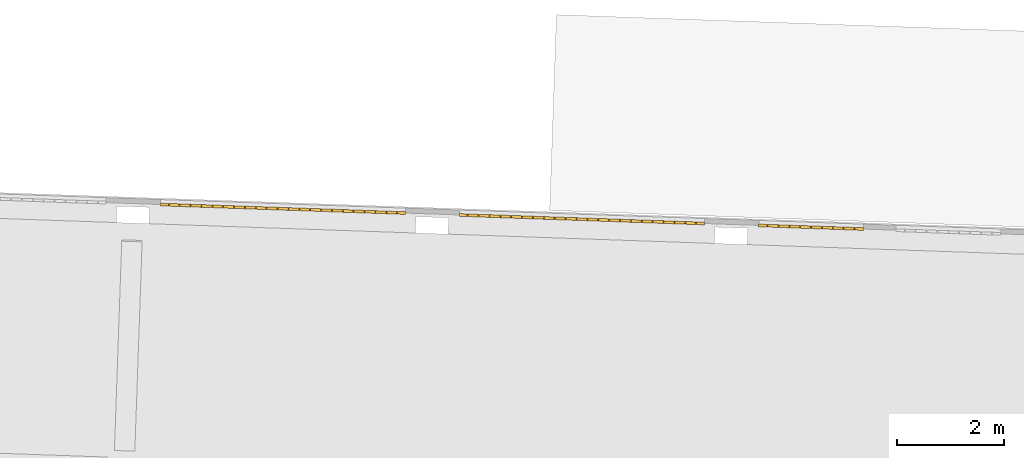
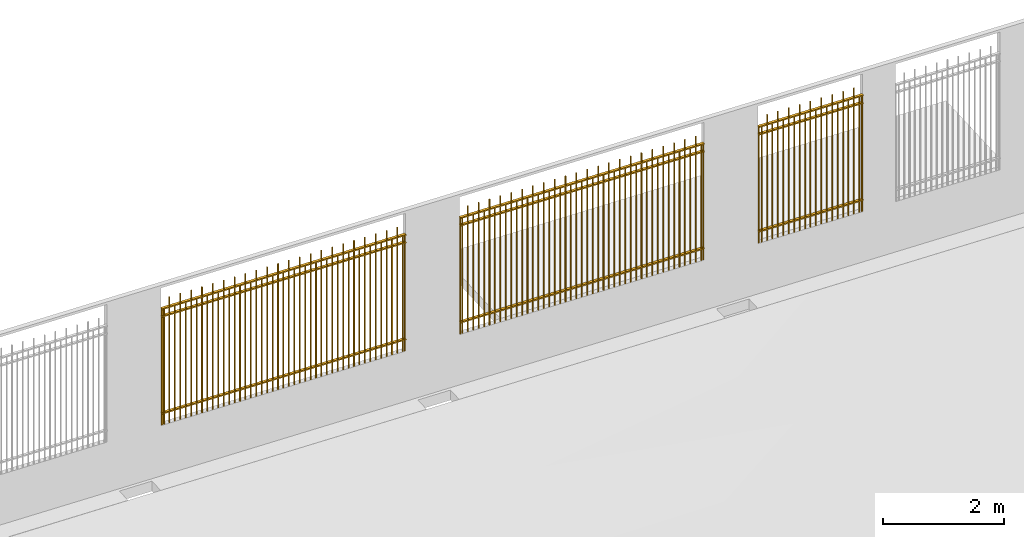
# One storey, part 15 of 17: 3 railings.
"""IFC2X3 building model written with IfcOpenShell, lengths in feet."""

from ifc_helpers import new_model, entity, si_unit, converted_unit, derived_unit, direction, frame, frame_2d, origin, origin_2d_with_axis, place, context, subcontext, project, spatial, rectangle, extrude, element, save


model = new_model("IFC2X3")

# Units and contexts
model_context = context("Model", 3, precision=0.0001, world=origin(), true_north=direction((0.999390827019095, 0.0348994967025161)))
body_context = subcontext(model_context, "Body", "Model", "MODEL_VIEW")
ifc_project = project(units=[converted_unit("LENGTHUNIT", "FOOT", entity("IfcRatioMeasure", 0.3048), si_unit("LENGTHUNIT", "METRE"), dimensions=[1, 0, 0, 0, 0, 0, 0]), converted_unit("AREAUNIT", "SQUARE FOOT", entity("IfcRatioMeasure", 0.09290304), si_unit("AREAUNIT", "SQUARE_METRE"), dimensions=[2, 0, 0, 0, 0, 0, 0]), converted_unit("VOLUMEUNIT", "CUBIC FOOT", entity("IfcRatioMeasure", 0.028316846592), si_unit("VOLUMEUNIT", "CUBIC_METRE"), dimensions=[3, 0, 0, 0, 0, 0, 0]), converted_unit("PLANEANGLEUNIT", "DEGREE", entity("IfcRatioMeasure", 0.0174532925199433), si_unit("PLANEANGLEUNIT", "RADIAN"), dimensions=[0, 0, 0, 0, 0, 0, 0]), si_unit("MASSUNIT", "GRAM", prefix="KILO"), si_unit("TIMEUNIT", "SECOND"), si_unit("FREQUENCYUNIT", "HERTZ"), si_unit("THERMODYNAMICTEMPERATUREUNIT", "DEGREE_CELSIUS"), derived_unit("THERMALTRANSMITTANCEUNIT", [(si_unit("MASSUNIT", "GRAM", prefix="KILO"), 1), (si_unit("THERMODYNAMICTEMPERATUREUNIT", "KELVIN"), -1), (si_unit("TIMEUNIT", "SECOND"), -3)]), derived_unit("VOLUMETRICFLOWRATEUNIT", [(si_unit("LENGTHUNIT", "METRE"), 3), (si_unit("TIMEUNIT", "SECOND"), -1)]), si_unit("ELECTRICCURRENTUNIT", "AMPERE"), si_unit("ELECTRICVOLTAGEUNIT", "VOLT"), si_unit("POWERUNIT", "WATT"), si_unit("FORCEUNIT", "NEWTON"), si_unit("ILLUMINANCEUNIT", "LUX"), si_unit("LUMINOUSFLUXUNIT", "LUMEN"), si_unit("LUMINOUSINTENSITYUNIT", "CANDELA"), derived_unit("USERDEFINED", [(si_unit("MASSUNIT", "GRAM", prefix="KILO"), -1), (si_unit("LENGTHUNIT", "METRE"), -2), (si_unit("TIMEUNIT", "SECOND"), 3), (si_unit("LUMINOUSFLUXUNIT", "LUMEN"), 1)]), derived_unit("LINEARVELOCITYUNIT", [(si_unit("LENGTHUNIT", "METRE"), 1), (si_unit("TIMEUNIT", "SECOND"), -1)]), si_unit("PRESSUREUNIT", "PASCAL"), derived_unit("USERDEFINED", [(si_unit("LENGTHUNIT", "METRE"), -2), (si_unit("MASSUNIT", "GRAM", prefix="KILO"), 1), (si_unit("TIMEUNIT", "SECOND"), -2)])], contexts=[model_context])

# Site, building, storey
site_placement = place(None, frame((892.518771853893, 322.38689265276, 0.00393700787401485), z_axis=(0.0, 0.0, 1.0), x_axis=(0.0348994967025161, 0.999390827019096, 0.0)))
site = spatial("IfcSite", under=ifc_project, at=site_placement, Name="Default", CompositionType="ELEMENT")
building_placement = place(site_placement, origin())
building = spatial("IfcBuilding", under=site, at=building_placement, CompositionType="ELEMENT")
storey_placement = place(building_placement, frame((0.0, 0.0, 557.0)))
storey = spatial("IfcBuildingStorey", under=building, at=storey_placement, Name="Existing Garage - 1st Level", CompositionType="ELEMENT", Elevation=557.0)

# Railings
railing_1_placement = place(storey_placement, origin())
element("IfcRailing", 1, at=railing_1_placement, inside=storey, Name="Railing:Garage Security Grille 8'-4\" High", ObjectType="Railing:Garage Security Grille 8'-4\" High", PredefinedType="NOTDEFINED", context=body_context, shape_type="SweptSolid", body=[
    extrude(rectangle(XDim=0.0625, YDim=0.0625, at=origin_2d_with_axis()), frame((224.125209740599, 253.222286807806, 0.75), z_axis=(0.0, 0.0, 1.0), x_axis=(0.0, 1.0, 0.0)), (0.0, 0.0, 1.0), 7.66666666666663),
    extrude(rectangle(XDim=0.0625, YDim=0.0625, at=origin_2d_with_axis()), frame((224.125209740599, 252.888953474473, 0.75), z_axis=(0.0, 0.0, 1.0), x_axis=(0.0, 1.0, 0.0)), (0.0, 0.0, 1.0), 8.33333333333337),
    extrude(rectangle(XDim=0.0625, YDim=0.0625, at=origin_2d_with_axis()), frame((224.125209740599, 252.555620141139, 0.75), z_axis=(0.0, 0.0, 1.0), x_axis=(0.0, 1.0, 0.0)), (0.0, 0.0, 1.0), 7.66666666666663),
    extrude(rectangle(XDim=0.0625, YDim=0.0625, at=origin_2d_with_axis()), frame((224.125209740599, 252.222286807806, 0.75), z_axis=(0.0, 0.0, 1.0), x_axis=(0.0, 1.0, 0.0)), (0.0, 0.0, 1.0), 8.33333333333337),
    extrude(rectangle(XDim=0.0625, YDim=0.0625, at=origin_2d_with_axis()), frame((224.125209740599, 251.888953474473, 0.75), z_axis=(0.0, 0.0, 1.0), x_axis=(0.0, 1.0, 0.0)), (0.0, 0.0, 1.0), 7.66666666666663),
    extrude(rectangle(XDim=0.0625, YDim=0.0625, at=origin_2d_with_axis()), frame((224.125209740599, 251.555620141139, 0.75), z_axis=(0.0, 0.0, 1.0), x_axis=(0.0, 1.0, 0.0)), (0.0, 0.0, 1.0), 8.33333333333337),
    extrude(rectangle(XDim=0.0625, YDim=0.0625, at=origin_2d_with_axis()), frame((224.125209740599, 251.222286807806, 0.75), z_axis=(0.0, 0.0, 1.0), x_axis=(0.0, 1.0, 0.0)), (0.0, 0.0, 1.0), 7.66666666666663),
    extrude(rectangle(XDim=0.0625, YDim=0.0625, at=origin_2d_with_axis()), frame((224.125209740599, 250.888953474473, 0.75), z_axis=(0.0, 0.0, 1.0), x_axis=(0.0, 1.0, 0.0)), (0.0, 0.0, 1.0), 8.33333333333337),
    extrude(rectangle(XDim=0.0625, YDim=0.0625, at=origin_2d_with_axis()), frame((224.125209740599, 250.555620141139, 0.75), z_axis=(0.0, 0.0, 1.0), x_axis=(0.0, 1.0, 0.0)), (0.0, 0.0, 1.0), 7.66666666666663),
    extrude(rectangle(XDim=0.0625, YDim=0.0625, at=origin_2d_with_axis()), frame((224.125209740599, 250.222286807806, 0.75), z_axis=(0.0, 0.0, 1.0), x_axis=(0.0, 1.0, 0.0)), (0.0, 0.0, 1.0), 8.33333333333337),
    extrude(rectangle(XDim=0.0625, YDim=0.0625, at=origin_2d_with_axis()), frame((224.125209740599, 249.888953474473, 0.75), z_axis=(0.0, 0.0, 1.0), x_axis=(0.0, 1.0, 0.0)), (0.0, 0.0, 1.0), 7.66666666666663),
    extrude(rectangle(XDim=0.0625, YDim=0.0625, at=origin_2d_with_axis()), frame((224.125209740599, 249.555620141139, 0.75), z_axis=(0.0, 0.0, 1.0), x_axis=(0.0, 1.0, 0.0)), (0.0, 0.0, 1.0), 8.33333333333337),
    extrude(rectangle(XDim=0.0625, YDim=0.0625, at=origin_2d_with_axis()), frame((224.125209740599, 249.222286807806, 0.75), z_axis=(0.0, 0.0, 1.0), x_axis=(0.0, 1.0, 0.0)), (0.0, 0.0, 1.0), 7.66666666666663),
    extrude(rectangle(XDim=0.0625, YDim=0.0625, at=origin_2d_with_axis()), frame((224.125209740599, 248.888953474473, 0.75), z_axis=(0.0, 0.0, 1.0), x_axis=(0.0, 1.0, 0.0)), (0.0, 0.0, 1.0), 8.33333333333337),
    extrude(rectangle(XDim=0.0625, YDim=0.0625, at=origin_2d_with_axis()), frame((224.125209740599, 248.555620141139, 0.75), z_axis=(0.0, 0.0, 1.0), x_axis=(0.0, 1.0, 0.0)), (0.0, 0.0, 1.0), 7.66666666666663),
    extrude(rectangle(XDim=0.0625, YDim=0.0625, at=origin_2d_with_axis()), frame((224.125209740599, 248.222286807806, 0.75), z_axis=(0.0, 0.0, 1.0), x_axis=(0.0, 1.0, 0.0)), (0.0, 0.0, 1.0), 8.33333333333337),
    extrude(rectangle(XDim=0.0625, YDim=0.0625, at=origin_2d_with_axis()), frame((224.125209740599, 247.888953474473, 0.75), z_axis=(0.0, 0.0, 1.0), x_axis=(0.0, 1.0, 0.0)), (0.0, 0.0, 1.0), 7.66666666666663),
    extrude(rectangle(XDim=0.0625, YDim=0.0625, at=origin_2d_with_axis()), frame((224.125209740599, 247.555620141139, 0.75), z_axis=(0.0, 0.0, 1.0), x_axis=(0.0, 1.0, 0.0)), (0.0, 0.0, 1.0), 8.33333333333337),
    extrude(rectangle(XDim=0.0625, YDim=0.0625, at=origin_2d_with_axis()), frame((224.125209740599, 247.222286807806, 0.75), z_axis=(0.0, 0.0, 1.0), x_axis=(0.0, 1.0, 0.0)), (0.0, 0.0, 1.0), 7.66666666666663),
    extrude(rectangle(XDim=0.0625, YDim=0.0625, at=origin_2d_with_axis()), frame((224.125209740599, 253.388953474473, 0.75), z_axis=(0.0, 0.0, 1.0), x_axis=(0.0, 1.0, 0.0)), (0.0, 0.0, 1.0), 7.66666666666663),
    extrude(rectangle(XDim=0.0625, YDim=0.0625, at=origin_2d_with_axis()), frame((224.125209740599, 247.055620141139, 0.75), z_axis=(0.0, 0.0, 1.0), x_axis=(0.0, 1.0, 0.0)), (0.0, 0.0, 1.0), 7.66666666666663),
    extrude(rectangle(XDim=6.4166666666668, YDim=0.166666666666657, at=frame_2d((0.0, 1.4210854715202e-14), x_axis=(1.0, 0.0))), frame((224.1252097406, 250.222286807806, 8.41666666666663), z_axis=(0.0, 0.0, 1.0), x_axis=(0.0, 1.0, 0.0)), (0.0, 0.0, 1.0), 0.0833333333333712),
    extrude(rectangle(XDim=6.4166666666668, YDim=0.166666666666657, at=frame_2d((0.0, 1.4210854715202e-14), x_axis=(1.0, 0.0))), frame((224.1252097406, 250.222286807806, 1.5), z_axis=(0.0, 0.0, 1.0), x_axis=(0.0, 1.0, 0.0)), (0.0, 0.0, 1.0), 0.0833333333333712),
    extrude(rectangle(XDim=6.4166666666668, YDim=0.166666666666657, at=frame_2d((0.0, 1.4210854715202e-14), x_axis=(1.0, 0.0))), frame((224.1252097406, 250.222286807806, 7.91666666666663), z_axis=(0.0, 0.0, 1.0), x_axis=(0.0, 1.0, 0.0)), (0.0, 0.0, 1.0), 0.0833333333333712),
])
railing_2_placement = place(storey_placement, origin())
element("IfcRailing", 2, at=railing_2_placement, inside=storey, Name="Railing:Garage Security Grille 8'-4\" High", ObjectType="Railing:Garage Security Grille 8'-4\" High", PredefinedType="NOTDEFINED", context=body_context, shape_type="SweptSolid", body=[
    extrude(rectangle(XDim=0.0625, YDim=0.0625, at=origin_2d_with_axis()), frame((224.1252097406, 271.597286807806, 0.75), z_axis=(0.0, 0.0, 1.0), x_axis=(0.0, 1.0, 0.0)), (0.0, 0.0, 1.0), 7.66666666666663),
    extrude(rectangle(XDim=0.0625, YDim=0.0625, at=origin_2d_with_axis()), frame((224.1252097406, 271.263953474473, 0.75), z_axis=(0.0, 0.0, 1.0), x_axis=(0.0, 1.0, 0.0)), (0.0, 0.0, 1.0), 8.33333333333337),
    extrude(rectangle(XDim=0.0625, YDim=0.0625, at=origin_2d_with_axis()), frame((224.1252097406, 270.930620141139, 0.75), z_axis=(0.0, 0.0, 1.0), x_axis=(0.0, 1.0, 0.0)), (0.0, 0.0, 1.0), 7.66666666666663),
    extrude(rectangle(XDim=0.0625, YDim=0.0625, at=origin_2d_with_axis()), frame((224.1252097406, 270.597286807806, 0.75), z_axis=(0.0, 0.0, 1.0), x_axis=(0.0, 1.0, 0.0)), (0.0, 0.0, 1.0), 8.33333333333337),
    extrude(rectangle(XDim=0.0625, YDim=0.0625, at=origin_2d_with_axis()), frame((224.1252097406, 270.263953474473, 0.75), z_axis=(0.0, 0.0, 1.0), x_axis=(0.0, 1.0, 0.0)), (0.0, 0.0, 1.0), 7.66666666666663),
    extrude(rectangle(XDim=0.0625, YDim=0.0625, at=origin_2d_with_axis()), frame((224.1252097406, 269.930620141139, 0.75), z_axis=(0.0, 0.0, 1.0), x_axis=(0.0, 1.0, 0.0)), (0.0, 0.0, 1.0), 8.33333333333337),
    extrude(rectangle(XDim=0.0625, YDim=0.0625, at=origin_2d_with_axis()), frame((224.1252097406, 269.597286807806, 0.75), z_axis=(0.0, 0.0, 1.0), x_axis=(0.0, 1.0, 0.0)), (0.0, 0.0, 1.0), 7.66666666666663),
    extrude(rectangle(XDim=0.0625, YDim=0.0625, at=origin_2d_with_axis()), frame((224.1252097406, 269.263953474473, 0.75), z_axis=(0.0, 0.0, 1.0), x_axis=(0.0, 1.0, 0.0)), (0.0, 0.0, 1.0), 8.33333333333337),
    extrude(rectangle(XDim=0.0625, YDim=0.0625, at=origin_2d_with_axis()), frame((224.1252097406, 268.930620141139, 0.75), z_axis=(0.0, 0.0, 1.0), x_axis=(0.0, 1.0, 0.0)), (0.0, 0.0, 1.0), 7.66666666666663),
    extrude(rectangle(XDim=0.0625, YDim=0.0625, at=origin_2d_with_axis()), frame((224.1252097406, 268.597286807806, 0.75), z_axis=(0.0, 0.0, 1.0), x_axis=(0.0, 1.0, 0.0)), (0.0, 0.0, 1.0), 8.33333333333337),
    extrude(rectangle(XDim=0.0625, YDim=0.0625, at=origin_2d_with_axis()), frame((224.1252097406, 268.263953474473, 0.75), z_axis=(0.0, 0.0, 1.0), x_axis=(0.0, 1.0, 0.0)), (0.0, 0.0, 1.0), 7.66666666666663),
    extrude(rectangle(XDim=0.0625, YDim=0.0625, at=origin_2d_with_axis()), frame((224.1252097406, 267.930620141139, 0.75), z_axis=(0.0, 0.0, 1.0), x_axis=(0.0, 1.0, 0.0)), (0.0, 0.0, 1.0), 8.33333333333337),
    extrude(rectangle(XDim=0.0625, YDim=0.0625, at=origin_2d_with_axis()), frame((224.1252097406, 267.597286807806, 0.75), z_axis=(0.0, 0.0, 1.0), x_axis=(0.0, 1.0, 0.0)), (0.0, 0.0, 1.0), 7.66666666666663),
    extrude(rectangle(XDim=0.0625, YDim=0.0625, at=origin_2d_with_axis()), frame((224.1252097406, 267.263953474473, 0.75), z_axis=(0.0, 0.0, 1.0), x_axis=(0.0, 1.0, 0.0)), (0.0, 0.0, 1.0), 8.33333333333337),
    extrude(rectangle(XDim=0.0625, YDim=0.0625, at=origin_2d_with_axis()), frame((224.1252097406, 266.930620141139, 0.75), z_axis=(0.0, 0.0, 1.0), x_axis=(0.0, 1.0, 0.0)), (0.0, 0.0, 1.0), 7.66666666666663),
    extrude(rectangle(XDim=0.0625, YDim=0.0625, at=origin_2d_with_axis()), frame((224.1252097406, 266.597286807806, 0.75), z_axis=(0.0, 0.0, 1.0), x_axis=(0.0, 1.0, 0.0)), (0.0, 0.0, 1.0), 8.33333333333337),
    extrude(rectangle(XDim=0.0625, YDim=0.0625, at=origin_2d_with_axis()), frame((224.1252097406, 266.263953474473, 0.75), z_axis=(0.0, 0.0, 1.0), x_axis=(0.0, 1.0, 0.0)), (0.0, 0.0, 1.0), 7.66666666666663),
    extrude(rectangle(XDim=0.0625, YDim=0.0625, at=origin_2d_with_axis()), frame((224.1252097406, 265.930620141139, 0.75), z_axis=(0.0, 0.0, 1.0), x_axis=(0.0, 1.0, 0.0)), (0.0, 0.0, 1.0), 8.33333333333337),
    extrude(rectangle(XDim=0.0625, YDim=0.0625, at=origin_2d_with_axis()), frame((224.1252097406, 265.597286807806, 0.75), z_axis=(0.0, 0.0, 1.0), x_axis=(0.0, 1.0, 0.0)), (0.0, 0.0, 1.0), 7.66666666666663),
    extrude(rectangle(XDim=0.0625, YDim=0.0625, at=origin_2d_with_axis()), frame((224.1252097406, 265.263953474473, 0.75), z_axis=(0.0, 0.0, 1.0), x_axis=(0.0, 1.0, 0.0)), (0.0, 0.0, 1.0), 8.33333333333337),
    extrude(rectangle(XDim=0.0625, YDim=0.0625, at=origin_2d_with_axis()), frame((224.1252097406, 264.930620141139, 0.75), z_axis=(0.0, 0.0, 1.0), x_axis=(0.0, 1.0, 0.0)), (0.0, 0.0, 1.0), 7.66666666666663),
    extrude(rectangle(XDim=0.0625, YDim=0.0625, at=origin_2d_with_axis()), frame((224.1252097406, 264.597286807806, 0.75), z_axis=(0.0, 0.0, 1.0), x_axis=(0.0, 1.0, 0.0)), (0.0, 0.0, 1.0), 8.33333333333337),
    extrude(rectangle(XDim=0.0625, YDim=0.0625, at=origin_2d_with_axis()), frame((224.1252097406, 264.263953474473, 0.75), z_axis=(0.0, 0.0, 1.0), x_axis=(0.0, 1.0, 0.0)), (0.0, 0.0, 1.0), 7.66666666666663),
    extrude(rectangle(XDim=0.0625, YDim=0.0625, at=origin_2d_with_axis()), frame((224.1252097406, 263.930620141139, 0.75), z_axis=(0.0, 0.0, 1.0), x_axis=(0.0, 1.0, 0.0)), (0.0, 0.0, 1.0), 8.33333333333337),
    extrude(rectangle(XDim=0.0625, YDim=0.0625, at=origin_2d_with_axis()), frame((224.1252097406, 263.597286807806, 0.75), z_axis=(0.0, 0.0, 1.0), x_axis=(0.0, 1.0, 0.0)), (0.0, 0.0, 1.0), 7.66666666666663),
    extrude(rectangle(XDim=0.0625, YDim=0.0625, at=origin_2d_with_axis()), frame((224.1252097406, 263.263953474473, 0.75), z_axis=(0.0, 0.0, 1.0), x_axis=(0.0, 1.0, 0.0)), (0.0, 0.0, 1.0), 8.33333333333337),
    extrude(rectangle(XDim=0.0625, YDim=0.0625, at=origin_2d_with_axis()), frame((224.1252097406, 262.930620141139, 0.75), z_axis=(0.0, 0.0, 1.0), x_axis=(0.0, 1.0, 0.0)), (0.0, 0.0, 1.0), 7.66666666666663),
    extrude(rectangle(XDim=0.0625, YDim=0.0625, at=origin_2d_with_axis()), frame((224.1252097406, 262.597286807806, 0.75), z_axis=(0.0, 0.0, 1.0), x_axis=(0.0, 1.0, 0.0)), (0.0, 0.0, 1.0), 8.33333333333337),
    extrude(rectangle(XDim=0.0625, YDim=0.0625, at=origin_2d_with_axis()), frame((224.1252097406, 262.263953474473, 0.75), z_axis=(0.0, 0.0, 1.0), x_axis=(0.0, 1.0, 0.0)), (0.0, 0.0, 1.0), 7.66666666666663),
    extrude(rectangle(XDim=0.0625, YDim=0.0625, at=origin_2d_with_axis()), frame((224.1252097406, 261.930620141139, 0.75), z_axis=(0.0, 0.0, 1.0), x_axis=(0.0, 1.0, 0.0)), (0.0, 0.0, 1.0), 8.33333333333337),
    extrude(rectangle(XDim=0.0625, YDim=0.0625, at=origin_2d_with_axis()), frame((224.1252097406, 261.597286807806, 0.75), z_axis=(0.0, 0.0, 1.0), x_axis=(0.0, 1.0, 0.0)), (0.0, 0.0, 1.0), 7.66666666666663),
    extrude(rectangle(XDim=0.0625, YDim=0.0625, at=origin_2d_with_axis()), frame((224.1252097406, 261.263953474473, 0.75), z_axis=(0.0, 0.0, 1.0), x_axis=(0.0, 1.0, 0.0)), (0.0, 0.0, 1.0), 8.33333333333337),
    extrude(rectangle(XDim=0.0625, YDim=0.0625, at=origin_2d_with_axis()), frame((224.1252097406, 260.930620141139, 0.75), z_axis=(0.0, 0.0, 1.0), x_axis=(0.0, 1.0, 0.0)), (0.0, 0.0, 1.0), 7.66666666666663),
    extrude(rectangle(XDim=0.0625, YDim=0.0625, at=origin_2d_with_axis()), frame((224.1252097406, 260.597286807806, 0.75), z_axis=(0.0, 0.0, 1.0), x_axis=(0.0, 1.0, 0.0)), (0.0, 0.0, 1.0), 8.33333333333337),
    extrude(rectangle(XDim=0.0625, YDim=0.0625, at=origin_2d_with_axis()), frame((224.1252097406, 260.263953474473, 0.75), z_axis=(0.0, 0.0, 1.0), x_axis=(0.0, 1.0, 0.0)), (0.0, 0.0, 1.0), 7.66666666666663),
    extrude(rectangle(XDim=0.0625, YDim=0.0625, at=origin_2d_with_axis()), frame((224.1252097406, 259.930620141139, 0.75), z_axis=(0.0, 0.0, 1.0), x_axis=(0.0, 1.0, 0.0)), (0.0, 0.0, 1.0), 8.33333333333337),
    extrude(rectangle(XDim=0.0625, YDim=0.0625, at=origin_2d_with_axis()), frame((224.1252097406, 259.597286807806, 0.75), z_axis=(0.0, 0.0, 1.0), x_axis=(0.0, 1.0, 0.0)), (0.0, 0.0, 1.0), 7.66666666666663),
    extrude(rectangle(XDim=0.0625, YDim=0.0625, at=origin_2d_with_axis()), frame((224.1252097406, 259.263953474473, 0.75), z_axis=(0.0, 0.0, 1.0), x_axis=(0.0, 1.0, 0.0)), (0.0, 0.0, 1.0), 8.33333333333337),
    extrude(rectangle(XDim=0.0625, YDim=0.0625, at=origin_2d_with_axis()), frame((224.1252097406, 258.930620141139, 0.75), z_axis=(0.0, 0.0, 1.0), x_axis=(0.0, 1.0, 0.0)), (0.0, 0.0, 1.0), 7.66666666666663),
    extrude(rectangle(XDim=0.0625, YDim=0.0625, at=origin_2d_with_axis()), frame((224.1252097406, 258.597286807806, 0.75), z_axis=(0.0, 0.0, 1.0), x_axis=(0.0, 1.0, 0.0)), (0.0, 0.0, 1.0), 8.33333333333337),
    extrude(rectangle(XDim=0.0625, YDim=0.0625, at=origin_2d_with_axis()), frame((224.1252097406, 258.263953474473, 0.75), z_axis=(0.0, 0.0, 1.0), x_axis=(0.0, 1.0, 0.0)), (0.0, 0.0, 1.0), 7.66666666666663),
    extrude(rectangle(XDim=0.0625, YDim=0.0625, at=origin_2d_with_axis()), frame((224.1252097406, 257.930620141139, 0.75), z_axis=(0.0, 0.0, 1.0), x_axis=(0.0, 1.0, 0.0)), (0.0, 0.0, 1.0), 8.33333333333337),
    extrude(rectangle(XDim=0.0625, YDim=0.0625, at=origin_2d_with_axis()), frame((224.1252097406, 257.597286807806, 0.75), z_axis=(0.0, 0.0, 1.0), x_axis=(0.0, 1.0, 0.0)), (0.0, 0.0, 1.0), 7.66666666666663),
    extrude(rectangle(XDim=0.0625, YDim=0.0625, at=origin_2d_with_axis()), frame((224.1252097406, 257.263953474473, 0.75), z_axis=(0.0, 0.0, 1.0), x_axis=(0.0, 1.0, 0.0)), (0.0, 0.0, 1.0), 8.33333333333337),
    extrude(rectangle(XDim=0.0625, YDim=0.0625, at=origin_2d_with_axis()), frame((224.1252097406, 256.930620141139, 0.75), z_axis=(0.0, 0.0, 1.0), x_axis=(0.0, 1.0, 0.0)), (0.0, 0.0, 1.0), 7.66666666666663),
    extrude(rectangle(XDim=0.0625, YDim=0.0625, at=origin_2d_with_axis()), frame((224.1252097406, 271.722286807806, 0.75), z_axis=(0.0, 0.0, 1.0), x_axis=(0.0, 1.0, 0.0)), (0.0, 0.0, 1.0), 7.66666666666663),
    extrude(rectangle(XDim=0.0625, YDim=0.0625, at=origin_2d_with_axis()), frame((224.1252097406, 256.805620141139, 0.75), z_axis=(0.0, 0.0, 1.0), x_axis=(0.0, 1.0, 0.0)), (0.0, 0.0, 1.0), 7.66666666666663),
    extrude(rectangle(XDim=14.9999999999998, YDim=0.166666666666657, at=frame_2d((2.8421709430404e-14, -1.4210854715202e-14), x_axis=(1.0, 0.0))), frame((224.1252097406, 264.263953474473, 8.41666666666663), z_axis=(0.0, 0.0, 1.0), x_axis=(0.0, 1.0, 0.0)), (0.0, 0.0, 1.0), 0.0833333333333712),
    extrude(rectangle(XDim=14.9999999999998, YDim=0.166666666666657, at=frame_2d((2.8421709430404e-14, -1.4210854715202e-14), x_axis=(1.0, 0.0))), frame((224.1252097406, 264.263953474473, 1.5), z_axis=(0.0, 0.0, 1.0), x_axis=(0.0, 1.0, 0.0)), (0.0, 0.0, 1.0), 0.0833333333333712),
    extrude(rectangle(XDim=14.9999999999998, YDim=0.166666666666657, at=frame_2d((2.8421709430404e-14, -1.4210854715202e-14), x_axis=(1.0, 0.0))), frame((224.1252097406, 264.263953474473, 7.91666666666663), z_axis=(0.0, 0.0, 1.0), x_axis=(0.0, 1.0, 0.0)), (0.0, 0.0, 1.0), 0.0833333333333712),
])
railing_3_placement = place(storey_placement, origin())
element("IfcRailing", 3, at=railing_3_placement, inside=storey, Name="Railing:Garage Security Grille 8'-4\" High", ObjectType="Railing:Garage Security Grille 8'-4\" High", PredefinedType="NOTDEFINED", context=body_context, shape_type="SweptSolid", body=[
    extrude(rectangle(XDim=0.0625, YDim=0.0625, at=origin_2d_with_axis()), frame((224.1252097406, 289.920203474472, 0.75), z_axis=(0.0, 0.0, 1.0), x_axis=(0.0, 1.0, 0.0)), (0.0, 0.0, 1.0), 7.66666666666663),
    extrude(rectangle(XDim=0.0625, YDim=0.0625, at=origin_2d_with_axis()), frame((224.1252097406, 289.586870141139, 0.75), z_axis=(0.0, 0.0, 1.0), x_axis=(0.0, 1.0, 0.0)), (0.0, 0.0, 1.0), 8.33333333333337),
    extrude(rectangle(XDim=0.0625, YDim=0.0625, at=origin_2d_with_axis()), frame((224.1252097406, 289.253536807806, 0.75), z_axis=(0.0, 0.0, 1.0), x_axis=(0.0, 1.0, 0.0)), (0.0, 0.0, 1.0), 7.66666666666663),
    extrude(rectangle(XDim=0.0625, YDim=0.0625, at=origin_2d_with_axis()), frame((224.1252097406, 288.920203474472, 0.75), z_axis=(0.0, 0.0, 1.0), x_axis=(0.0, 1.0, 0.0)), (0.0, 0.0, 1.0), 8.33333333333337),
    extrude(rectangle(XDim=0.0625, YDim=0.0625, at=origin_2d_with_axis()), frame((224.1252097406, 288.586870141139, 0.75), z_axis=(0.0, 0.0, 1.0), x_axis=(0.0, 1.0, 0.0)), (0.0, 0.0, 1.0), 7.66666666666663),
    extrude(rectangle(XDim=0.0625, YDim=0.0625, at=origin_2d_with_axis()), frame((224.1252097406, 288.253536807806, 0.75), z_axis=(0.0, 0.0, 1.0), x_axis=(0.0, 1.0, 0.0)), (0.0, 0.0, 1.0), 8.33333333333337),
    extrude(rectangle(XDim=0.0625, YDim=0.0625, at=origin_2d_with_axis()), frame((224.1252097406, 287.920203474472, 0.75), z_axis=(0.0, 0.0, 1.0), x_axis=(0.0, 1.0, 0.0)), (0.0, 0.0, 1.0), 7.66666666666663),
    extrude(rectangle(XDim=0.0625, YDim=0.0625, at=origin_2d_with_axis()), frame((224.1252097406, 287.586870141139, 0.75), z_axis=(0.0, 0.0, 1.0), x_axis=(0.0, 1.0, 0.0)), (0.0, 0.0, 1.0), 8.33333333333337),
    extrude(rectangle(XDim=0.0625, YDim=0.0625, at=origin_2d_with_axis()), frame((224.1252097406, 287.253536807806, 0.75), z_axis=(0.0, 0.0, 1.0), x_axis=(0.0, 1.0, 0.0)), (0.0, 0.0, 1.0), 7.66666666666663),
    extrude(rectangle(XDim=0.0625, YDim=0.0625, at=origin_2d_with_axis()), frame((224.1252097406, 286.920203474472, 0.75), z_axis=(0.0, 0.0, 1.0), x_axis=(0.0, 1.0, 0.0)), (0.0, 0.0, 1.0), 8.33333333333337),
    extrude(rectangle(XDim=0.0625, YDim=0.0625, at=origin_2d_with_axis()), frame((224.1252097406, 286.586870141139, 0.75), z_axis=(0.0, 0.0, 1.0), x_axis=(0.0, 1.0, 0.0)), (0.0, 0.0, 1.0), 7.66666666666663),
    extrude(rectangle(XDim=0.0625, YDim=0.0625, at=origin_2d_with_axis()), frame((224.1252097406, 286.253536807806, 0.75), z_axis=(0.0, 0.0, 1.0), x_axis=(0.0, 1.0, 0.0)), (0.0, 0.0, 1.0), 8.33333333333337),
    extrude(rectangle(XDim=0.0625, YDim=0.0625, at=origin_2d_with_axis()), frame((224.1252097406, 285.920203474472, 0.75), z_axis=(0.0, 0.0, 1.0), x_axis=(0.0, 1.0, 0.0)), (0.0, 0.0, 1.0), 7.66666666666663),
    extrude(rectangle(XDim=0.0625, YDim=0.0625, at=origin_2d_with_axis()), frame((224.1252097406, 285.586870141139, 0.75), z_axis=(0.0, 0.0, 1.0), x_axis=(0.0, 1.0, 0.0)), (0.0, 0.0, 1.0), 8.33333333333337),
    extrude(rectangle(XDim=0.0625, YDim=0.0625, at=origin_2d_with_axis()), frame((224.1252097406, 285.253536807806, 0.75), z_axis=(0.0, 0.0, 1.0), x_axis=(0.0, 1.0, 0.0)), (0.0, 0.0, 1.0), 7.66666666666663),
    extrude(rectangle(XDim=0.0625, YDim=0.0625, at=origin_2d_with_axis()), frame((224.1252097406, 284.920203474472, 0.75), z_axis=(0.0, 0.0, 1.0), x_axis=(0.0, 1.0, 0.0)), (0.0, 0.0, 1.0), 8.33333333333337),
    extrude(rectangle(XDim=0.0625, YDim=0.0625, at=origin_2d_with_axis()), frame((224.1252097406, 284.586870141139, 0.75), z_axis=(0.0, 0.0, 1.0), x_axis=(0.0, 1.0, 0.0)), (0.0, 0.0, 1.0), 7.66666666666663),
    extrude(rectangle(XDim=0.0625, YDim=0.0625, at=origin_2d_with_axis()), frame((224.1252097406, 284.253536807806, 0.75), z_axis=(0.0, 0.0, 1.0), x_axis=(0.0, 1.0, 0.0)), (0.0, 0.0, 1.0), 8.33333333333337),
    extrude(rectangle(XDim=0.0625, YDim=0.0625, at=origin_2d_with_axis()), frame((224.1252097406, 283.920203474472, 0.75), z_axis=(0.0, 0.0, 1.0), x_axis=(0.0, 1.0, 0.0)), (0.0, 0.0, 1.0), 7.66666666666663),
    extrude(rectangle(XDim=0.0625, YDim=0.0625, at=origin_2d_with_axis()), frame((224.1252097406, 283.586870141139, 0.75), z_axis=(0.0, 0.0, 1.0), x_axis=(0.0, 1.0, 0.0)), (0.0, 0.0, 1.0), 8.33333333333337),
    extrude(rectangle(XDim=0.0625, YDim=0.0625, at=origin_2d_with_axis()), frame((224.1252097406, 283.253536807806, 0.75), z_axis=(0.0, 0.0, 1.0), x_axis=(0.0, 1.0, 0.0)), (0.0, 0.0, 1.0), 7.66666666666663),
    extrude(rectangle(XDim=0.0625, YDim=0.0625, at=origin_2d_with_axis()), frame((224.1252097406, 282.920203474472, 0.75), z_axis=(0.0, 0.0, 1.0), x_axis=(0.0, 1.0, 0.0)), (0.0, 0.0, 1.0), 8.33333333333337),
    extrude(rectangle(XDim=0.0625, YDim=0.0625, at=origin_2d_with_axis()), frame((224.1252097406, 282.586870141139, 0.75), z_axis=(0.0, 0.0, 1.0), x_axis=(0.0, 1.0, 0.0)), (0.0, 0.0, 1.0), 7.66666666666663),
    extrude(rectangle(XDim=0.0625, YDim=0.0625, at=origin_2d_with_axis()), frame((224.1252097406, 282.253536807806, 0.75), z_axis=(0.0, 0.0, 1.0), x_axis=(0.0, 1.0, 0.0)), (0.0, 0.0, 1.0), 8.33333333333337),
    extrude(rectangle(XDim=0.0625, YDim=0.0625, at=origin_2d_with_axis()), frame((224.1252097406, 281.920203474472, 0.75), z_axis=(0.0, 0.0, 1.0), x_axis=(0.0, 1.0, 0.0)), (0.0, 0.0, 1.0), 7.66666666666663),
    extrude(rectangle(XDim=0.0625, YDim=0.0625, at=origin_2d_with_axis()), frame((224.1252097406, 281.586870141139, 0.75), z_axis=(0.0, 0.0, 1.0), x_axis=(0.0, 1.0, 0.0)), (0.0, 0.0, 1.0), 8.33333333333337),
    extrude(rectangle(XDim=0.0625, YDim=0.0625, at=origin_2d_with_axis()), frame((224.1252097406, 281.253536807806, 0.75), z_axis=(0.0, 0.0, 1.0), x_axis=(0.0, 1.0, 0.0)), (0.0, 0.0, 1.0), 7.66666666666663),
    extrude(rectangle(XDim=0.0625, YDim=0.0625, at=origin_2d_with_axis()), frame((224.1252097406, 280.920203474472, 0.75), z_axis=(0.0, 0.0, 1.0), x_axis=(0.0, 1.0, 0.0)), (0.0, 0.0, 1.0), 8.33333333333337),
    extrude(rectangle(XDim=0.0625, YDim=0.0625, at=origin_2d_with_axis()), frame((224.1252097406, 280.586870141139, 0.75), z_axis=(0.0, 0.0, 1.0), x_axis=(0.0, 1.0, 0.0)), (0.0, 0.0, 1.0), 7.66666666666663),
    extrude(rectangle(XDim=0.0625, YDim=0.0625, at=origin_2d_with_axis()), frame((224.1252097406, 280.253536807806, 0.75), z_axis=(0.0, 0.0, 1.0), x_axis=(0.0, 1.0, 0.0)), (0.0, 0.0, 1.0), 8.33333333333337),
    extrude(rectangle(XDim=0.0625, YDim=0.0625, at=origin_2d_with_axis()), frame((224.1252097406, 279.920203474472, 0.75), z_axis=(0.0, 0.0, 1.0), x_axis=(0.0, 1.0, 0.0)), (0.0, 0.0, 1.0), 7.66666666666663),
    extrude(rectangle(XDim=0.0625, YDim=0.0625, at=origin_2d_with_axis()), frame((224.1252097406, 279.586870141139, 0.75), z_axis=(0.0, 0.0, 1.0), x_axis=(0.0, 1.0, 0.0)), (0.0, 0.0, 1.0), 8.33333333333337),
    extrude(rectangle(XDim=0.0625, YDim=0.0625, at=origin_2d_with_axis()), frame((224.1252097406, 279.253536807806, 0.75), z_axis=(0.0, 0.0, 1.0), x_axis=(0.0, 1.0, 0.0)), (0.0, 0.0, 1.0), 7.66666666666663),
    extrude(rectangle(XDim=0.0625, YDim=0.0625, at=origin_2d_with_axis()), frame((224.1252097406, 278.920203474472, 0.75), z_axis=(0.0, 0.0, 1.0), x_axis=(0.0, 1.0, 0.0)), (0.0, 0.0, 1.0), 8.33333333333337),
    extrude(rectangle(XDim=0.0625, YDim=0.0625, at=origin_2d_with_axis()), frame((224.1252097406, 278.586870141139, 0.75), z_axis=(0.0, 0.0, 1.0), x_axis=(0.0, 1.0, 0.0)), (0.0, 0.0, 1.0), 7.66666666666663),
    extrude(rectangle(XDim=0.0625, YDim=0.0625, at=origin_2d_with_axis()), frame((224.1252097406, 278.253536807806, 0.75), z_axis=(0.0, 0.0, 1.0), x_axis=(0.0, 1.0, 0.0)), (0.0, 0.0, 1.0), 8.33333333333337),
    extrude(rectangle(XDim=0.0625, YDim=0.0625, at=origin_2d_with_axis()), frame((224.1252097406, 277.920203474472, 0.75), z_axis=(0.0, 0.0, 1.0), x_axis=(0.0, 1.0, 0.0)), (0.0, 0.0, 1.0), 7.66666666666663),
    extrude(rectangle(XDim=0.0625, YDim=0.0625, at=origin_2d_with_axis()), frame((224.1252097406, 277.586870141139, 0.75), z_axis=(0.0, 0.0, 1.0), x_axis=(0.0, 1.0, 0.0)), (0.0, 0.0, 1.0), 8.33333333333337),
    extrude(rectangle(XDim=0.0625, YDim=0.0625, at=origin_2d_with_axis()), frame((224.1252097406, 277.253536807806, 0.75), z_axis=(0.0, 0.0, 1.0), x_axis=(0.0, 1.0, 0.0)), (0.0, 0.0, 1.0), 7.66666666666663),
    extrude(rectangle(XDim=0.0625, YDim=0.0625, at=origin_2d_with_axis()), frame((224.1252097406, 276.920203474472, 0.75), z_axis=(0.0, 0.0, 1.0), x_axis=(0.0, 1.0, 0.0)), (0.0, 0.0, 1.0), 8.33333333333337),
    extrude(rectangle(XDim=0.0625, YDim=0.0625, at=origin_2d_with_axis()), frame((224.1252097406, 276.586870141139, 0.75), z_axis=(0.0, 0.0, 1.0), x_axis=(0.0, 1.0, 0.0)), (0.0, 0.0, 1.0), 7.66666666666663),
    extrude(rectangle(XDim=0.0625, YDim=0.0625, at=origin_2d_with_axis()), frame((224.1252097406, 276.253536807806, 0.75), z_axis=(0.0, 0.0, 1.0), x_axis=(0.0, 1.0, 0.0)), (0.0, 0.0, 1.0), 8.33333333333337),
    extrude(rectangle(XDim=0.0625, YDim=0.0625, at=origin_2d_with_axis()), frame((224.1252097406, 275.920203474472, 0.75), z_axis=(0.0, 0.0, 1.0), x_axis=(0.0, 1.0, 0.0)), (0.0, 0.0, 1.0), 7.66666666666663),
    extrude(rectangle(XDim=0.0625, YDim=0.0625, at=origin_2d_with_axis()), frame((224.1252097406, 275.586870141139, 0.75), z_axis=(0.0, 0.0, 1.0), x_axis=(0.0, 1.0, 0.0)), (0.0, 0.0, 1.0), 8.33333333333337),
    extrude(rectangle(XDim=0.0625, YDim=0.0625, at=origin_2d_with_axis()), frame((224.1252097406, 275.253536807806, 0.75), z_axis=(0.0, 0.0, 1.0), x_axis=(0.0, 1.0, 0.0)), (0.0, 0.0, 1.0), 7.66666666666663),
    extrude(rectangle(XDim=0.0625, YDim=0.0625, at=origin_2d_with_axis()), frame((224.1252097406, 290.045203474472, 0.75), z_axis=(0.0, 0.0, 1.0), x_axis=(0.0, 1.0, 0.0)), (0.0, 0.0, 1.0), 7.66666666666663),
    extrude(rectangle(XDim=0.0625, YDim=0.0625, at=origin_2d_with_axis()), frame((224.1252097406, 275.128536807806, 0.75), z_axis=(0.0, 0.0, 1.0), x_axis=(0.0, 1.0, 0.0)), (0.0, 0.0, 1.0), 7.66666666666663),
    extrude(rectangle(XDim=14.9999999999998, YDim=0.166666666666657, at=frame_2d((2.8421709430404e-14, -1.4210854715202e-14), x_axis=(1.0, 0.0))), frame((224.1252097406, 282.586870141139, 8.41666666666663), z_axis=(0.0, 0.0, 1.0), x_axis=(0.0, 1.0, 0.0)), (0.0, 0.0, 1.0), 0.0833333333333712),
    extrude(rectangle(XDim=14.9999999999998, YDim=0.166666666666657, at=frame_2d((2.8421709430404e-14, -1.4210854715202e-14), x_axis=(1.0, 0.0))), frame((224.1252097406, 282.586870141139, 1.5), z_axis=(0.0, 0.0, 1.0), x_axis=(0.0, 1.0, 0.0)), (0.0, 0.0, 1.0), 0.0833333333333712),
    extrude(rectangle(XDim=14.9999999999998, YDim=0.166666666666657, at=frame_2d((2.8421709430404e-14, -1.4210854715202e-14), x_axis=(1.0, 0.0))), frame((224.1252097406, 282.586870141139, 7.91666666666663), z_axis=(0.0, 0.0, 1.0), x_axis=(0.0, 1.0, 0.0)), (0.0, 0.0, 1.0), 0.0833333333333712),
])

save(model, "model.ifc")
